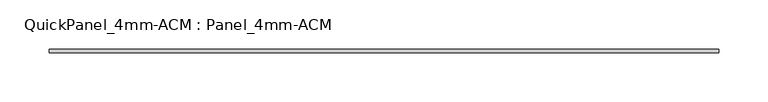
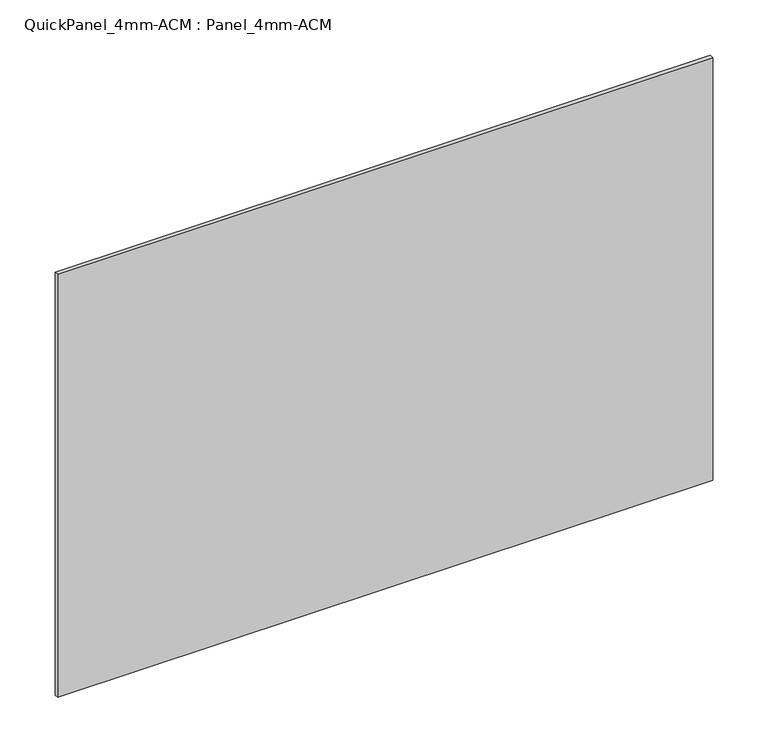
"""IFC4 building model written with IfcOpenShell, lengths in millimetres: plate geometry, QuickPanel_4mm-ACM : Panel_4mm-ACM."""

from ifc_helpers import new_model, si_unit, origin, origin_with_axes, place, context, project, spatial, polyline, outline, extrude, source, transform, mapped, element, save


def quickpanel_4mm_acm_panel_4mm_acm_0aa18a6e(model_context):
    return source(origin(), model_context, "Body", "SweptSolid", [
        extrude(outline(polyline([(-341.1618133, -6.096), (341.1618133, -6.096), (341.1618133, -9.906), (-341.1618133, -9.906), (-341.1618133, -6.096)])), origin_with_axes(), (0.0, 0.0, 1.0), 465.5267351),
    ])


if __name__ == "__main__":
    model = new_model("IFC4")
    model_context = context("Model", 3, world=origin())
    ifc_project = project(units=[si_unit("LENGTHUNIT", "METRE", prefix="MILLI")], contexts=[model_context])
    site = spatial("IfcSite", under=ifc_project)
    building = spatial("IfcBuilding", under=site)
    placement = place(None, origin())
    quickpanel_4mm_acm_panel_4mm_acm_shape = quickpanel_4mm_acm_panel_4mm_acm_0aa18a6e(model_context)
    element("IfcPlate", 1, ObjectType="QuickPanel_4mm-ACM : Panel_4mm-ACM", at=placement, inside=building, context=model_context, shape_type="MappedRepresentation", body=[
        mapped(quickpanel_4mm_acm_panel_4mm_acm_shape, transform((0.0, 0.0, 0.0), x_axis=(1.0, 0.0, 0.0), y_axis=(0.0, 1.0, 0.0), z_axis=(0.0, 0.0, 1.0))),
    ])
    save(model, "model.ifc")
